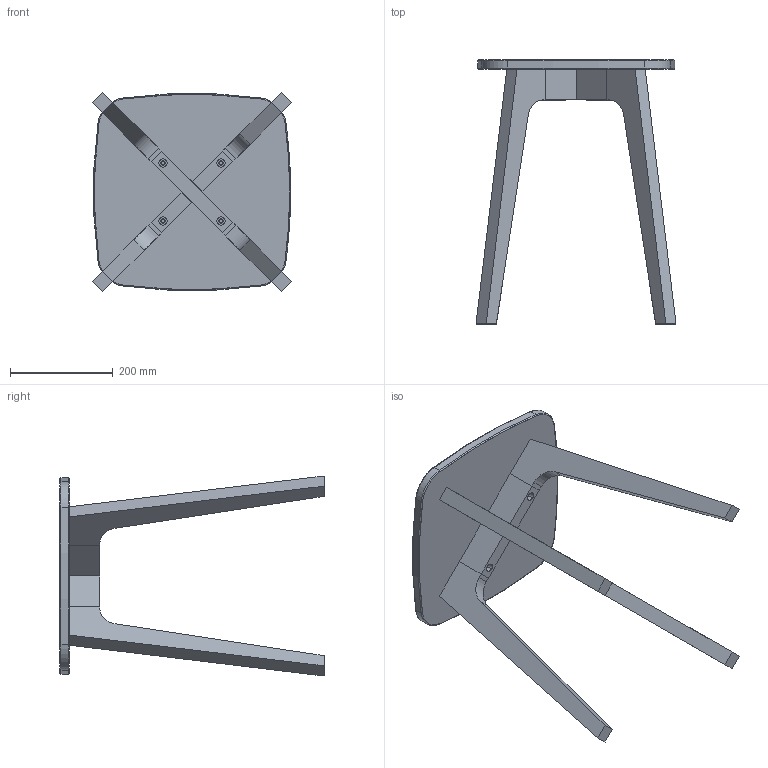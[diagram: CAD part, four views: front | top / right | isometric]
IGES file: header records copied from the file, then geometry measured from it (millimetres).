
Start section: SolidWorks IGES file using analytic representation for surfaces
Global section: file name: P:\3D CAD BLOCKS\AGENT\SIDE TABLE\SQ\AGE29+AGE30.IGS; native system: SolidWorks 2012; preprocessor: SolidWorks 2012; author: tom; date: 160520.123853; units: millimetre
Bounding box: 390 x 515 x 390 mm (x, y, z)
Surface area: 709497.6 mm2 (no closed solid volume)
Topology: 0 solids, 0 shells, 173 faces, 2240 edges, 2240 vertices
Faces by surface type: bspline 110, revolution 63
